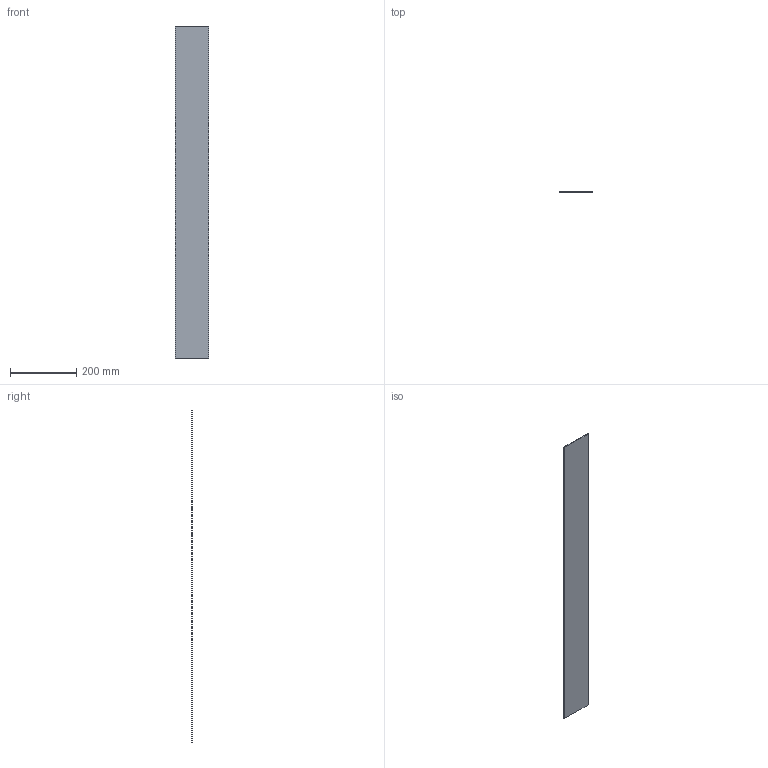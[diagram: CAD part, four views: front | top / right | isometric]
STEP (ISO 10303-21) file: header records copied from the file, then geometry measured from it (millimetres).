
FILE_DESCRIPTION (( 'STEP AP214' ), '1' );
FILE_NAME ('AFB1003.STEP', '2025-06-12T18:30:34', ( '' ), ( '' ), 'SwSTEP 2.0', 'SolidWorks 2023', '' );
FILE_SCHEMA (( 'AUTOMOTIVE_DESIGN' ));
Length unit declared in the file: millimetre
Products named in the file (1): AFB1003
Bounding box: 100 x 3 x 1000 mm (x, y, z)
Volume: 300000 mm3; surface area: 206600 mm2
Topology: 1 solids, 1 shells, 6 faces, 12 edges, 8 vertices
Faces by surface type: plane 6
Entity records: 179 total; most frequent: CARTESIAN_POINT 27, DIRECTION 26, ORIENTED_EDGE 24, EDGE_CURVE 12, LINE 12, VECTOR 12, VERTEX_POINT 8, AXIS2_PLACEMENT_3D 7
